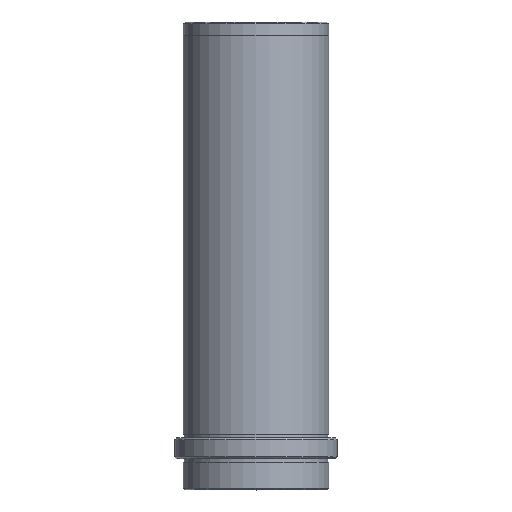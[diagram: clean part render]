
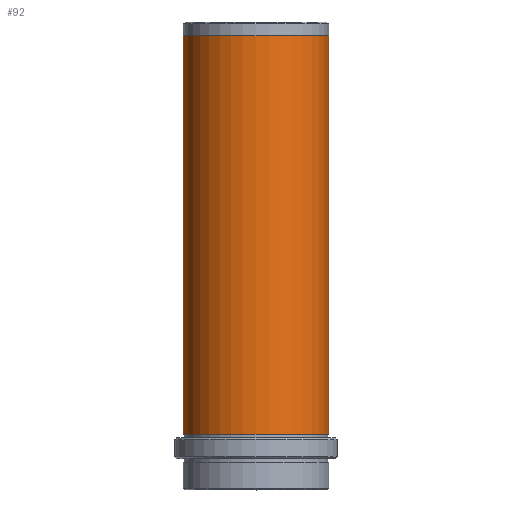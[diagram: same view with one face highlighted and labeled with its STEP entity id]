
A CAD part, top view. The second image highlights one B-rep face of the part: STEP entity #92.
In plain terms, the highlighted cylindrical face has radius 21 mm (diameter 42 mm), a full revolution.
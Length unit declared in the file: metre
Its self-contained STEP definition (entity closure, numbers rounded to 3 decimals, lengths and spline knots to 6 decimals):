
#92 = ADVANCED_FACE( '', ( #144, #145 ), #146, .T. );
#144 = FACE_OUTER_BOUND( '', #204, .T. );
#145 = FACE_OUTER_BOUND( '', #205, .T. );
#146 = CYLINDRICAL_SURFACE( '', #206, 0.021 );
#204 = EDGE_LOOP( '', ( #294 ) );
#205 = EDGE_LOOP( '', ( #295 ) );
#206 = AXIS2_PLACEMENT_3D( '', #296, #297, #298 );
#294 = ORIENTED_EDGE( '', *, *, #335, .T. );
#295 = ORIENTED_EDGE( '', *, *, #334, .F. );
#296 = CARTESIAN_POINT( '', ( 0., 0., 0. ) );
#297 = DIRECTION( '', ( 0., 1., 0. ) );
#298 = DIRECTION( '', ( 0., 0., -1. ) );
#334 = EDGE_CURVE( '', #369, #369, #370, .T. );
#335 = EDGE_CURVE( '', #371, #371, #372, .T. );
#369 = VERTEX_POINT( '', #409 );
#370 = CIRCLE( '', #410, 0.021 );
#371 = VERTEX_POINT( '', #411 );
#372 = CIRCLE( '', #412, 0.021 );
#409 = CARTESIAN_POINT( '', ( 0., 0.007, -0.021 ) );
#410 = AXIS2_PLACEMENT_3D( '', #464, #465, #466 );
#411 = CARTESIAN_POINT( '', ( 0., 0.122, -0.021 ) );
#412 = AXIS2_PLACEMENT_3D( '', #467, #468, #469 );
#464 = CARTESIAN_POINT( '', ( 0., 0.007, 0. ) );
#465 = DIRECTION( '', ( 0., -1., 0. ) );
#466 = DIRECTION( '', ( 0., 0., -1. ) );
#467 = CARTESIAN_POINT( '', ( 0., 0.122, 0. ) );
#468 = DIRECTION( '', ( 0., -1., 0. ) );
#469 = DIRECTION( '', ( 0., 0., -1. ) );
